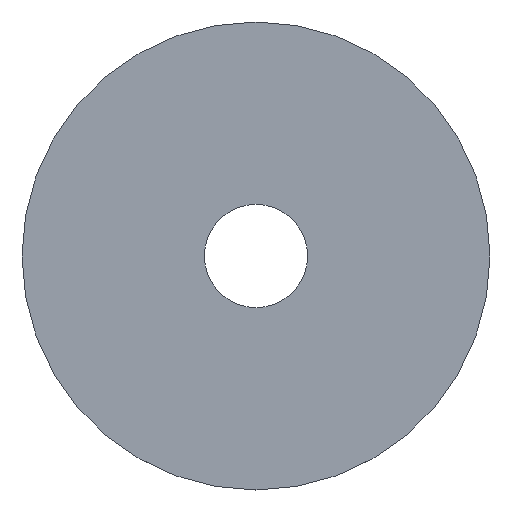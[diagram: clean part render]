
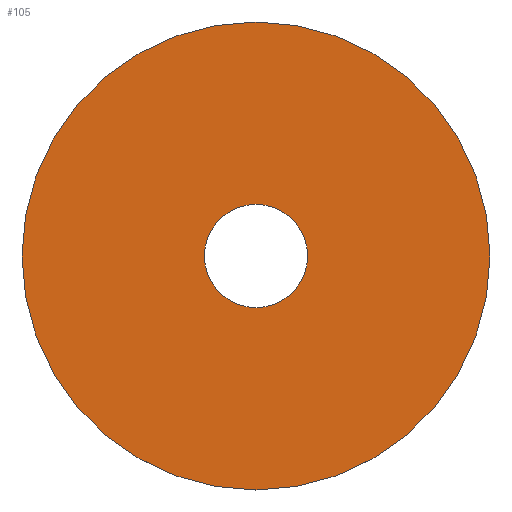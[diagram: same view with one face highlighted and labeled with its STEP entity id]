
A CAD part, top view. The second image highlights one B-rep face of the part: STEP entity #105.
In plain terms, the highlighted planar face has unit normal (0, 0, 1).
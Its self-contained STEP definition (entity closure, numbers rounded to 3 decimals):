
#21 = EDGE_CURVE('',#22,#22,#24,.T.);
#22 = VERTEX_POINT('',#23);
#23 = CARTESIAN_POINT('',(-252.,-265.913,2.5));
#24 = SURFACE_CURVE('',#25,(#30,#42),.PCURVE_S1.);
#25 = CIRCLE('',#26,83.);
#26 = AXIS2_PLACEMENT_3D('',#27,#28,#29);
#27 = CARTESIAN_POINT('',(-335.,-265.913,2.5));
#28 = DIRECTION('',(0.,0.,1.));
#29 = DIRECTION('',(1.,0.,-0.));
#30 = PCURVE('',#31,#36);
#31 = CYLINDRICAL_SURFACE('',#32,83.);
#32 = AXIS2_PLACEMENT_3D('',#33,#34,#35);
#33 = CARTESIAN_POINT('',(-335.,-265.913,2.));
#34 = DIRECTION('',(0.,0.,1.));
#35 = DIRECTION('',(1.,0.,-0.));
#36 = DEFINITIONAL_REPRESENTATION('',(#37),#41);
#37 = LINE('',#38,#39);
#38 = CARTESIAN_POINT('',(0.,0.5));
#39 = VECTOR('',#40,1.);
#40 = DIRECTION('',(1.,0.));
#41 = ( GEOMETRIC_REPRESENTATION_CONTEXT(2) 
PARAMETRIC_REPRESENTATION_CONTEXT() REPRESENTATION_CONTEXT('2D SPACE',''
  ) );
#42 = PCURVE('',#43,#48);
#43 = PLANE('',#44);
#44 = AXIS2_PLACEMENT_3D('',#45,#46,#47);
#45 = CARTESIAN_POINT('',(-335.,-265.913,2.5));
#46 = DIRECTION('',(0.,0.,1.));
#47 = DIRECTION('',(1.,0.,-0.));
#48 = DEFINITIONAL_REPRESENTATION('',(#49),#53);
#49 = CIRCLE('',#50,83.);
#50 = AXIS2_PLACEMENT_2D('',#51,#52);
#51 = CARTESIAN_POINT('',(0.,0.));
#52 = DIRECTION('',(1.,0.));
#53 = ( GEOMETRIC_REPRESENTATION_CONTEXT(2) 
PARAMETRIC_REPRESENTATION_CONTEXT() REPRESENTATION_CONTEXT('2D SPACE',''
  ) );
#105 = ADVANCED_FACE('',(#106,#109),#43,.T.);
#106 = FACE_BOUND('',#107,.T.);
#107 = EDGE_LOOP('',(#108));
#108 = ORIENTED_EDGE('',*,*,#21,.T.);
#109 = FACE_BOUND('',#110,.T.);
#110 = EDGE_LOOP('',(#111));
#111 = ORIENTED_EDGE('',*,*,#112,.F.);
#112 = EDGE_CURVE('',#113,#113,#115,.T.);
#113 = VERTEX_POINT('',#114);
#114 = CARTESIAN_POINT('',(-316.7,-265.913,2.5));
#115 = SURFACE_CURVE('',#116,(#121,#128),.PCURVE_S1.);
#116 = CIRCLE('',#117,18.3);
#117 = AXIS2_PLACEMENT_3D('',#118,#119,#120);
#118 = CARTESIAN_POINT('',(-335.,-265.913,2.5));
#119 = DIRECTION('',(0.,0.,1.));
#120 = DIRECTION('',(1.,0.,-0.));
#121 = PCURVE('',#43,#122);
#122 = DEFINITIONAL_REPRESENTATION('',(#123),#127);
#123 = CIRCLE('',#124,18.3);
#124 = AXIS2_PLACEMENT_2D('',#125,#126);
#125 = CARTESIAN_POINT('',(0.,0.));
#126 = DIRECTION('',(1.,0.));
#127 = ( GEOMETRIC_REPRESENTATION_CONTEXT(2) 
PARAMETRIC_REPRESENTATION_CONTEXT() REPRESENTATION_CONTEXT('2D SPACE',''
  ) );
#128 = PCURVE('',#129,#134);
#129 = CYLINDRICAL_SURFACE('',#130,18.3);
#130 = AXIS2_PLACEMENT_3D('',#131,#132,#133);
#131 = CARTESIAN_POINT('',(-335.,-265.913,2.));
#132 = DIRECTION('',(0.,0.,1.));
#133 = DIRECTION('',(1.,0.,-0.));
#134 = DEFINITIONAL_REPRESENTATION('',(#135),#139);
#135 = LINE('',#136,#137);
#136 = CARTESIAN_POINT('',(0.,0.5));
#137 = VECTOR('',#138,1.);
#138 = DIRECTION('',(1.,0.));
#139 = ( GEOMETRIC_REPRESENTATION_CONTEXT(2) 
PARAMETRIC_REPRESENTATION_CONTEXT() REPRESENTATION_CONTEXT('2D SPACE',''
  ) );
